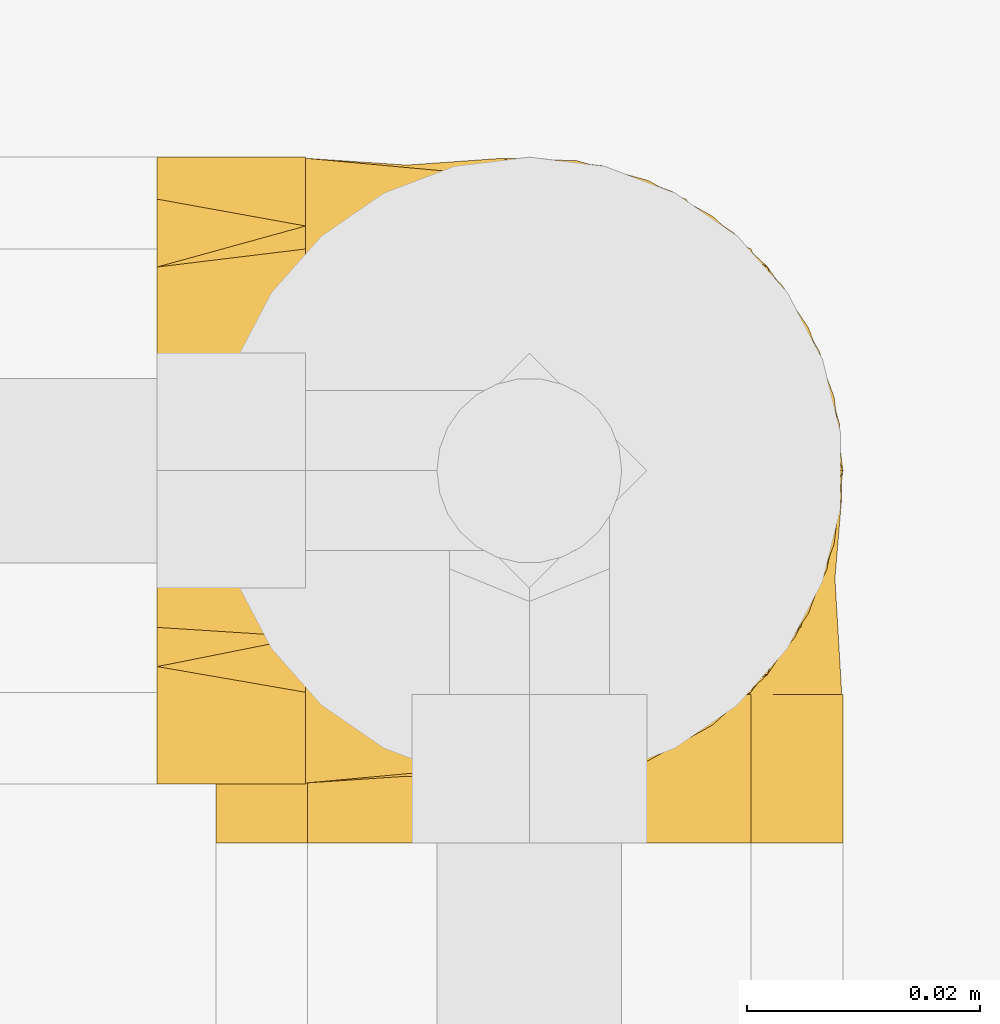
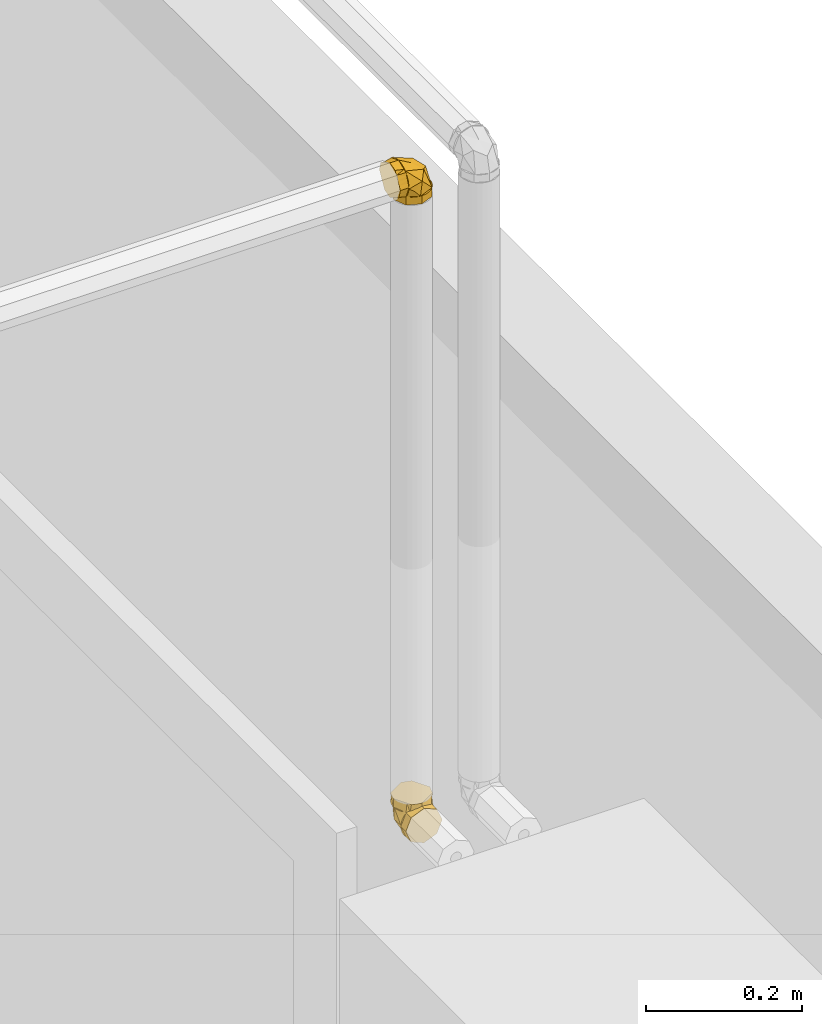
# One storey, part 365 of 652: 2 coverings.
"""IFC2X3 building model written with IfcOpenShell, lengths in millimetres."""

from ifc_helpers import new_model, entity, si_unit, converted_unit, direction, frame, origin, place, context, subcontext, project, spatial, face_set, surface_model, material, type_object, element, save


model = new_model("IFC2X3")

# Units and contexts
model_context = context("Model", 3, precision=0.01, world=frame((0.0, 0.0, 308426.39999999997)), true_north=direction((6.123233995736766e-17, 1.0)))
plan_context = context("Plan", 3, precision=0.01, world=frame((0.0, 0.0, 308426.39999999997)), true_north=direction((6.123233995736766e-17, 1.0)))
body_context = subcontext(model_context, "Body", "Model", "MODEL_VIEW")
ifc_project = project(units=[si_unit("LENGTHUNIT", "METRE", prefix="MILLI"), si_unit("AREAUNIT", "SQUARE_METRE"), si_unit("VOLUMEUNIT", "CUBIC_METRE"), converted_unit("PLANEANGLEUNIT", "DEGREE", entity("IfcPlaneAngleMeasure", 0.017453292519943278), si_unit("PLANEANGLEUNIT", "RADIAN"), dimensions=[0, 0, 0, 0, 0, 0, 0])], contexts=[model_context, plan_context])

# Site, building, storey
site_placement = place(None, origin())
site = spatial("IfcSite", under=ifc_project, at=site_placement, Name="Default", CompositionType="ELEMENT")
building_placement = place(site_placement, origin())
building = spatial("IfcBuilding", under=site, at=building_placement, CompositionType="ELEMENT")
storey_placement = place(building_placement, frame((0.0, 0.0, 1730.6999999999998)))
storey = spatial("IfcBuildingStorey", under=building, at=storey_placement, Name="EG_Produktion_FFB", CompositionType="ELEMENT", Elevation=1730.6999999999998)

# Coverings
ifc_material = material(Name="Dämmung - Armaflex-Schlauch")
covering_type = type_object("IfcCoveringType", Name="Rohrdämmung außen:Armaflex-Schlauch", PredefinedType="INSULATION")
covering_1_placement = place(storey_placement, frame((66196.95799511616, 39818.016249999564, 2671.4672277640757)))
element("IfcCovering", 1, at=covering_1_placement, inside=storey, type_object=covering_type, material=ifc_material, Name="Rohrdämmung außen:Armaflex-Schlauch", ObjectType="Rohrdämmung außen:Armaflex-Schlauch", PredefinedType="INSULATION", context=body_context, shape_type="SurfaceModel", body=[
    surface_model("IfcFaceBasedSurfaceModel", [(9.65642195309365, 12.766250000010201, 47.75027223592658), (5.678961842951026, 12.766250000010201, 42.79223424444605), (2.973980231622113, 12.766250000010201, 37.040242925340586), (1.6920879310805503, 12.766250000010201, 30.81456370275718), (1.904659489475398, 12.766250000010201, 24.46183649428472), (3.599859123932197, 12.766250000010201, 18.33577512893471), (6.683299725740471, 12.766250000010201, 12.777472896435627), (10.983298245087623, 12.766250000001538, 8.096410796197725), (16.26043484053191, 12.766250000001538, 4.553225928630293), (22.220883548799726, 12.766250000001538, 2.3451994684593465), (28.532772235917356, 12.766250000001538, 1.5952722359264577), (34.844660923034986, 12.766250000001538, 2.3451994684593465), (40.8051096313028, 12.766250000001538, 4.553225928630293), (46.08224622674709, 12.766250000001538, 8.096410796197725), (50.38224474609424, 12.766250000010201, 12.777472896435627), (53.465685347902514, 12.766250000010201, 18.33577512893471), (55.16088498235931, 12.766250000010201, 24.46183649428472), (55.37345654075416, 12.766250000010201, 30.81456370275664), (54.0915642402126, 12.766250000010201, 37.04024292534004), (51.38658262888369, 12.766250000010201, 42.79223424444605), (47.409122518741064, 12.766250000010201, 47.75027223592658), (51.38658262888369, 17.72428799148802, 47.75027223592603), (54.0915642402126, 23.476279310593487, 47.75027223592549), (55.37345654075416, 29.701958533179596, 47.75027223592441), (55.16088498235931, 36.05468574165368, 47.75027223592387), (53.465685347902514, 42.18074710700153, 47.750272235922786), (50.38224474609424, 47.73904933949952, 47.750272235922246), (46.08224622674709, 52.420111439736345, 47.750272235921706), (40.8051096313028, 55.96329630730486, 47.750272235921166), (34.844660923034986, 58.17132276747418, 47.750272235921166), (28.532772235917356, 58.921250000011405, 47.750272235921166), (22.220883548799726, 58.17132276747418, 47.750272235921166), (16.26043484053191, 55.96329630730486, 47.750272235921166), (10.983298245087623, 52.420111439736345, 47.750272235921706), (6.683299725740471, 47.73904933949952, 47.750272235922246), (3.599859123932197, 42.18074710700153, 47.750272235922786), (1.904659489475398, 36.05468574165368, 47.75027223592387), (1.6920879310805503, 29.701958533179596, 47.75027223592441), (2.973980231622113, 23.476279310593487, 47.75027223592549), (5.678961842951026, 17.72428799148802, 47.75027223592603), (2.2756962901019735, 22.71005615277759, 39.06982362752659), (28.534558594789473, 35.84413818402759, 7.779001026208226), (6.335913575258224, 12.76647705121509, 19.455613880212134), (3.6011967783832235, 33.56520751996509, 26.951086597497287), (14.284265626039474, 43.18322509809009, 18.674847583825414), (28.534558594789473, 48.37825683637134, 29.48668764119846), (6.335913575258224, 41.06242431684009, 47.75039842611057), (42.78020068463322, 43.18322509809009, 18.674847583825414), (53.46792041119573, 33.56520751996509, 26.951086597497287), (54.78877002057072, 22.71005615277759, 39.06982362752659), (50.728552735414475, 41.06242431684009, 47.75039842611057), (50.728552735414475, 12.76647705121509, 19.455613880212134), (28.532772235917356, 0.0, 1.5952722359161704), (33.29469446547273, 0.0, 3.567725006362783), (38.05661669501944, 0.0, 5.540177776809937), (42.818538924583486, 0.0, 7.51263054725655), (47.5804611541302, 0.0, 9.485083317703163), (49.552913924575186, 0.0, 14.247005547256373), (51.525366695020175, 0.0, 19.008927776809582), (53.497819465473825, 0.0, 23.770850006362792), (55.47027223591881, 0.0, 28.532772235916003), (53.49781946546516, 0.0, 33.29469446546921), (51.525366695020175, 0.0, 38.05661669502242), (49.552913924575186, 0.0, 42.818538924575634), (47.5804611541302, 0.0, 47.5804611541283), (42.81853892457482, 0.0, 49.552913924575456), (38.05661669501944, 0.0, 51.525366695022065), (33.29469446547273, 0.0, 53.49781946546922), (28.532772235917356, 0.0, 55.470272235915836), (23.77085000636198, 0.0, 53.49781946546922), (19.008927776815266, 0.0, 51.525366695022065), (14.247005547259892, 0.0, 49.552913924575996), (9.485083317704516, 0.0, 47.58046115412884), (7.512630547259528, 0.0, 42.818538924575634), (5.54017777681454, 0.0, 38.05661669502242), (3.567725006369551, 0.0, 33.29469446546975), (1.5952722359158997, 0.0, 28.532772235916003), (3.567725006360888, 0.0, 23.770850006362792), (5.54017777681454, 0.0, 19.008927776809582), (7.512630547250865, 0.0, 14.247005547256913), (9.485083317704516, 0.0, 9.485083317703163), (14.247005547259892, 0.0, 7.512630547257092), (19.008927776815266, 0.0, 5.540177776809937), (23.77085000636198, 0.0, 3.567725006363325), (28.532772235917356, 12.766250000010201, 1.5952722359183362), (23.77085000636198, 12.766250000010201, 3.567725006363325), (19.008927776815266, 12.766250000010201, 5.540177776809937), (14.247005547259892, 12.766250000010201, 7.512630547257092), (9.485083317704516, 12.766250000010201, 9.485083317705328), (7.095738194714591, 12.766250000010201, 15.253472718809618), (4.706393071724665, 12.766250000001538, 21.02186211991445), (1.5952722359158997, 12.766250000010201, 28.532772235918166), (3.567725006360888, 12.766250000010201, 33.29469446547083), (5.54017777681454, 12.766250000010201, 38.05661669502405), (7.512630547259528, 12.766250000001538, 42.818538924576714), (9.485083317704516, 12.766250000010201, 47.58046115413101), (15.253472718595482, 12.766250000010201, 49.96980627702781), (21.021862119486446, 12.766250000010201, 52.359151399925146), (28.532772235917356, 12.766250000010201, 55.470272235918), (33.29469446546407, 12.766250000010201, 53.49781946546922), (38.05661669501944, 12.766250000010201, 51.52536669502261), (42.81853892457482, 12.766250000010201, 49.552913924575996), (47.5804611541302, 12.766250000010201, 47.58046115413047), (49.96980627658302, 12.766250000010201, 41.81207175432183), (52.359151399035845, 12.766250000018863, 36.04368235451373), (55.47027223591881, 12.766250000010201, 28.532772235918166), (53.497819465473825, 12.766250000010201, 23.77085000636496), (51.525366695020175, 12.766250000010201, 19.008927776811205), (49.552913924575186, 12.766250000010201, 14.247005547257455), (47.5804611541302, 12.766250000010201, 9.485083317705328), (41.81207177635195, 12.766250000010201, 7.095738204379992), (36.0436823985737, 12.766250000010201, 4.706393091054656), (28.532772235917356, 58.921250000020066, 60.516522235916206), (22.700632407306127, 55.55406250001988, 60.5165222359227), (16.868492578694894, 52.186875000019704, 60.51652223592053), (11.036352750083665, 48.81968750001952, 60.516522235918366), (5.204212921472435, 45.452500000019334, 60.516522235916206), (3.3997425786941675, 38.71812500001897, 60.516522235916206), (1.5952722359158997, 31.98375000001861, 60.516522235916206), (4.962459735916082, 26.15161017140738, 60.51652223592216), (8.329647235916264, 20.319470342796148, 60.51652223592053), (11.696834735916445, 14.487330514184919, 60.516522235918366), (15.064022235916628, 8.65519068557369, 60.516522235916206), (21.79839723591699, 6.850720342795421, 60.516522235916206), (28.532772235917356, 5.046250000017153, 60.516522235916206), (34.36491206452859, 8.413437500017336, 60.5165222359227), (40.197051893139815, 11.780625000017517, 60.51652223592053), (46.02919172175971, 15.1478125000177, 60.51652223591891), (51.86133155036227, 18.51500000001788, 60.516522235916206), (53.66580189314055, 25.249375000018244, 60.516522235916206), (55.47027223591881, 31.98375000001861, 60.516522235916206), (52.10308473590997, 37.81588982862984, 60.5165222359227), (48.73589723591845, 43.64802965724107, 60.51652223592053), (45.36870973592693, 49.4801694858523, 60.51652223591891), (42.00152223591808, 55.312309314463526, 60.516522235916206), (35.26714723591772, 57.1167796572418, 60.516522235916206), (28.532772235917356, 58.921250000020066, 47.75027223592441), (33.29469446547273, 56.94879722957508, 47.75027223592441), (38.05661669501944, 54.97634445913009, 47.75027223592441), (42.81853892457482, 53.00389168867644, 47.75027223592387), (47.5804611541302, 51.03143891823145, 47.75027223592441), (49.552913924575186, 46.26951668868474, 47.75027223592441), (51.525366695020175, 41.50759445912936, 47.75027223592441), (53.497819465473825, 36.745672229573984, 47.75027223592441), (55.47027223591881, 31.98375000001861, 47.75027223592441), (53.497819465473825, 27.221827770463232, 47.75027223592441), (51.525366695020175, 22.459905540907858, 47.75027223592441), (49.552913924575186, 17.697983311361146, 47.75027223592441), (47.5804611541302, 12.93606108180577, 47.75027223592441), (42.81853892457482, 10.963608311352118, 47.75027223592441), (38.05661669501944, 8.99115554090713, 47.75027223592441), (33.29469446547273, 7.018702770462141, 47.75027223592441), (28.532772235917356, 5.046250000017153, 47.75027223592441), (23.770850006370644, 7.018702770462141, 47.75027223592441), (19.008927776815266, 8.99115554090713, 47.75027223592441), (14.247005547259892, 10.963608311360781, 47.75027223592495), (9.485083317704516, 12.93606108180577, 47.75027223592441), (7.512630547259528, 17.697983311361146, 47.75027223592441), (5.54017777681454, 22.459905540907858, 47.75027223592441), (3.567725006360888, 27.221827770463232, 47.75027223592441), (1.5952722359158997, 31.98375000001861, 47.75027223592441), (3.567725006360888, 36.745672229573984, 47.75027223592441), (5.54017777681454, 41.50759445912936, 47.75027223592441), (7.512630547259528, 46.26951668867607, 47.75027223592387), (9.485083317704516, 51.03143891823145, 47.75027223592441), (14.247005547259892, 53.00389168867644, 47.75027223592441), (19.008927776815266, 54.97634445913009, 47.75027223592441), (23.77085000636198, 56.94879722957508, 47.75027223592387)], [face_set([[[0, 1, 2, 3, 4, 5, 6, 7, 8, 9, 10, 11, 12, 13, 14, 15, 16, 17, 18, 19]], [[20, 21, 22, 23, 24, 25, 26, 27, 28, 29, 30, 31, 32, 33, 34, 35, 36, 37, 38, 39]], [[0, 40, 3]], [[10, 7, 41]], [[42, 3, 43]], [[40, 43, 3]], [[37, 40, 0]], [[7, 43, 44]], [[45, 41, 44]], [[7, 44, 41]], [[33, 30, 45]], [[45, 44, 33]], [[43, 33, 44]], [[43, 37, 46]], [[43, 7, 42]], [[37, 43, 40]], [[46, 33, 43]], [[13, 10, 41]], [[27, 47, 45]], [[45, 30, 27]], [[48, 47, 27]], [[49, 48, 23]], [[48, 50, 23]], [[45, 47, 41]], [[20, 49, 23]], [[47, 48, 13]], [[17, 49, 20]], [[41, 47, 13]], [[48, 17, 51]], [[48, 27, 50]], [[17, 48, 49]], [[51, 13, 48]]]), face_set([[[52, 53, 54, 55, 56, 57, 58, 59, 60, 61, 62, 63, 64, 65, 66, 67, 68, 69, 70, 71, 72, 73, 74, 75, 76, 77, 78, 79, 80, 81, 82, 83]], [[84, 85, 86, 87, 88, 89, 90, 91, 92, 93, 94, 95, 96, 97, 98, 99, 100, 101, 102, 103, 104, 105, 106, 107, 108, 109, 110, 111]], [[111, 110, 109, 56, 55, 54, 53, 52, 84]], [[56, 109, 108, 107, 106, 105, 60, 59, 58, 57]], [[104, 103, 102, 64, 63, 62, 61, 60, 105]], [[64, 102, 101, 100, 99, 98, 68, 67, 66, 65]], [[97, 96, 95, 72, 71, 70, 69, 68, 98]], [[72, 95, 94, 93, 92, 91, 76, 75, 74, 73]], [[90, 89, 88, 80, 79, 78, 77, 76, 91]], [[80, 88, 87, 86, 85, 84, 52, 83, 82, 81]]]), face_set([[[112, 113, 114, 115, 116, 117, 118, 119, 120, 121, 122, 123, 124, 125, 126, 127, 128, 129, 130, 131, 132, 133, 134, 135]], [[136, 137, 138, 139, 140, 141, 142, 143, 144, 145, 146, 147, 148, 149, 150, 151, 152, 153, 154, 155, 156, 157, 158, 159, 160, 161, 162, 163, 164, 165, 166, 167]], [[155, 121, 156]], [[118, 159, 119]], [[159, 158, 119]], [[123, 154, 153]], [[153, 152, 124]], [[121, 155, 122]], [[120, 158, 157]], [[118, 160, 159]], [[158, 120, 119]], [[124, 123, 153]], [[157, 156, 121]], [[155, 154, 122]], [[123, 122, 154]], [[120, 157, 121]], [[163, 115, 164]], [[112, 167, 113]], [[167, 166, 113]], [[117, 162, 161]], [[161, 160, 118]], [[115, 163, 116]], [[114, 166, 165]], [[112, 136, 167]], [[166, 114, 113]], [[118, 117, 161]], [[165, 164, 115]], [[163, 162, 116]], [[117, 116, 162]], [[114, 165, 115]], [[139, 133, 140]], [[130, 143, 131]], [[143, 142, 131]], [[135, 138, 137]], [[137, 136, 112]], [[133, 139, 134]], [[132, 142, 141]], [[130, 144, 143]], [[142, 132, 131]], [[112, 135, 137]], [[141, 140, 133]], [[139, 138, 134]], [[135, 134, 138]], [[132, 141, 133]], [[147, 127, 148]], [[124, 151, 125]], [[151, 150, 125]], [[129, 146, 145]], [[145, 144, 130]], [[127, 147, 128]], [[126, 150, 149]], [[124, 152, 151]], [[150, 126, 125]], [[130, 129, 145]], [[149, 148, 127]], [[147, 146, 128]], [[129, 128, 146]], [[126, 149, 127]]])]),
])
covering_2_placement = place(storey_placement, frame((66193.50701735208, 39821.46722776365, 3728.5327722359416)))
element("IfcCovering", 2, at=covering_2_placement, inside=storey, type_object=covering_type, material=ifc_material, Name="Rohrdämmung außen:Armaflex-Schlauch", ObjectType="Rohrdämmung außen:Armaflex-Schlauch", PredefinedType="INSULATION", context=body_context, shape_type="SurfaceModel", body=[
    surface_model("IfcFaceBasedSurfaceModel", [(12.766249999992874, 47.409122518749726, -47.750272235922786), (17.724287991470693, 51.38658262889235, -47.75027223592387), (23.47627931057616, 54.09156424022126, -47.75027223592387), (29.70195853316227, 55.373456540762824, -47.75027223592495), (36.054685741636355, 55.160884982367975, -47.75027223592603), (42.1807471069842, 53.465685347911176, -47.75027223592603), (47.7390493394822, 50.382244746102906, -47.75027223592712), (52.420111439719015, 46.08224622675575, -47.75027223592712), (55.963296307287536, 40.80510963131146, -47.7502722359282), (58.17132276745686, 34.84466092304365, -47.7502722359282), (58.921249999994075, 28.532772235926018, -47.7502722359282), (58.17132276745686, 22.220883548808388, -47.7502722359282), (55.963296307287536, 16.260434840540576, -47.7502722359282), (52.420111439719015, 10.983298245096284, -47.75027223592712), (47.7390493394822, 6.6832997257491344, -47.75027223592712), (42.1807471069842, 3.5998591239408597, -47.75027223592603), (36.054685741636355, 1.904659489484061, -47.75027223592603), (29.70195853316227, 1.6920879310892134, -47.75027223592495), (23.47627931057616, 2.973980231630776, -47.75027223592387), (17.724287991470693, 5.678961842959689, -47.75027223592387), (12.766249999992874, 9.656421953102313, -47.750272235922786), (12.766249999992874, 5.678961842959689, -42.79223424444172), (12.766249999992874, 2.973980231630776, -37.04024292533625), (12.766249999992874, 1.6920879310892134, -30.814563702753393), (12.766249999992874, 1.904659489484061, -24.46183649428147), (12.766249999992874, 3.5998591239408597, -18.33577512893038), (12.766249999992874, 6.6832997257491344, -12.777472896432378), (12.766250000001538, 10.983298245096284, -8.096410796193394), (12.766250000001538, 16.260434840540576, -4.553225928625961), (12.766250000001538, 22.220883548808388, -2.3451994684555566), (12.766250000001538, 28.532772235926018, -1.5952722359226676), (12.766250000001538, 34.84466092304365, -2.3451994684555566), (12.766250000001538, 40.80510963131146, -4.553225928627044), (12.766250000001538, 46.08224622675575, -8.096410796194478), (12.766249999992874, 50.382244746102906, -12.777472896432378), (12.766249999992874, 53.465685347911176, -18.33577512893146), (12.766249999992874, 55.160884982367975, -24.46183649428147), (12.766249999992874, 55.373456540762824, -30.814563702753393), (12.766249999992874, 54.09156424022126, -37.04024292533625), (12.766249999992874, 51.38658262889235, -42.7922342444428), (21.446644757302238, 54.78714235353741, -37.80729463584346), (52.737758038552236, 28.532930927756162, -24.672631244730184), (41.05940110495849, 50.72692506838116, -47.750292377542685), (33.56683518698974, 53.46629274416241, -26.9509805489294), (41.84074876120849, 42.77857301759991, -17.33238161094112), (31.03210618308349, 28.532930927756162, -12.139675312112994), (12.768104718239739, 50.72692506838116, -19.455507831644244), (41.84074876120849, 14.287288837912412, -17.33238161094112), (33.56683518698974, 3.599569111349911, -26.9509805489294), (21.446644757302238, 2.274068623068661, -37.80729463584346), (12.768104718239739, 6.338936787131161, -19.455507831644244), (41.05940110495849, 6.338936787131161, -47.750292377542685), (53.00389168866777, 42.818538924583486, -60.51652223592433), (54.97634445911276, 38.056616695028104, -60.51652223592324), (56.948797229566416, 33.29469446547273, -60.51652223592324), (58.921250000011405, 28.532772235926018, -60.51652223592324), (56.94879722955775, 23.770850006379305, -60.51652223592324), (54.97634445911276, 19.00892777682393, -60.51652223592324), (53.00389168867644, 14.247005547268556, -60.51652223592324), (51.03143891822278, 9.48508331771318, -60.51652223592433), (46.26951668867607, 7.512630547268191, -60.51652223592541), (41.507594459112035, 5.540177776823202, -60.51652223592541), (36.74567222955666, 3.567725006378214, -60.51652223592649), (31.983750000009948, 1.5952722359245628, -60.516522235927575), (27.22182777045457, 3.567725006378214, -60.516522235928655), (22.459905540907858, 5.540177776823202, -60.51652223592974), (17.697983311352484, 7.512630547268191, -60.51652223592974), (12.936061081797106, 9.48508331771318, -60.51652223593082), (10.963608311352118, 14.247005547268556, -60.5165222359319), (8.99115554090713, 19.00892777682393, -60.5165222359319), (7.018702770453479, 23.770850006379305, -60.5165222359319), (5.046250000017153, 28.532772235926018, -60.5165222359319), (7.018702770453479, 33.29469446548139, -60.5165222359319), (8.99115554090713, 38.056616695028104, -60.5165222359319), (10.963608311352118, 42.818538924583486, -60.51652223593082), (12.936061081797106, 47.58046115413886, -60.51652223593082), (17.697983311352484, 49.55291392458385, -60.51652223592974), (22.459905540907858, 51.525366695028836, -60.51652223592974), (27.22182777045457, 53.497819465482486, -60.516522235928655), (31.983750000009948, 55.47027223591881, -60.516522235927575), (36.74567222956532, 53.497819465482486, -60.516522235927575), (41.507594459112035, 51.525366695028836, -60.51652223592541), (46.26951668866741, 49.55291392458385, -60.51652223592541), (51.03143891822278, 47.58046115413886, -60.51652223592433), (58.92125000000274, 28.532772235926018, -47.75027223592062), (56.948797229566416, 33.29469446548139, -47.75027223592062), (54.97634445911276, 38.056616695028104, -47.750272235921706), (53.00389168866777, 42.818538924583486, -47.750272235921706), (51.03143891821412, 47.58046115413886, -47.750272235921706), (45.26304951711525, 49.96980627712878, -47.750272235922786), (39.49466011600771, 52.35915140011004, -47.75027223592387), (31.983750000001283, 55.47027223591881, -47.75027223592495), (27.221827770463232, 53.497819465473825, -47.75027223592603), (22.459905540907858, 51.525366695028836, -47.75027223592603), (17.69798331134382, 49.55291392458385, -47.7502722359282), (12.936061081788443, 47.58046115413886, -47.7502722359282), (10.546715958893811, 41.81207175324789, -47.7502722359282), (8.157370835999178, 36.04368235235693, -47.7502722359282), (5.046250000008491, 28.532772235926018, -47.75027223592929), (7.018702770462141, 23.770850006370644, -47.75027223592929), (8.99115554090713, 19.00892777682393, -47.7502722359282), (10.963608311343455, 14.247005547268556, -47.7502722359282), (12.936061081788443, 9.48508331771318, -47.7502722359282), (18.70445048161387, 7.095738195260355, -47.75027223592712), (24.472839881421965, 4.706393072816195, -47.75027223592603), (31.983750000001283, 1.5952722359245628, -47.75027223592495), (36.74567222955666, 3.567725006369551, -47.75027223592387), (41.507594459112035, 5.540177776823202, -47.75027223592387), (46.26951668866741, 7.512630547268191, -47.750272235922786), (51.03143891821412, 9.48508331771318, -47.750272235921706), (53.420784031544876, 15.253472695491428, -47.750272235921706), (55.81012914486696, 21.021862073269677, -47.750272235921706), (0.0, 28.532772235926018, -1.5952722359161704), (0.0, 34.36491206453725, -4.962459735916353), (0.0, 40.197051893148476, -8.329647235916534), (0.0, 46.02919172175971, -11.696834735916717), (0.0, 51.86133155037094, -15.064022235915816), (0.0, 53.66580189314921, -21.79839723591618), (0.0, 55.470272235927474, -28.532772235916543), (0.0, 52.10308473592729, -34.36491206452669), (0.0, 48.73589723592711, -40.197051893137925), (0.0, 45.36870973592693, -46.02919172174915), (0.0, 42.00152223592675, -51.861331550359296), (0.0, 35.26714723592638, -53.66580189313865), (0.0, 28.532772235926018, -55.470272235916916), (0.0, 22.70063240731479, -52.10308473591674), (0.0, 16.86849257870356, -48.73589723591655), (0.0, 11.036352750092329, -45.36870973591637), (0.0, 5.204212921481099, -42.00152223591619), (0.0, 3.399742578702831, -35.26714723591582), (0.0, 1.5952722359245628, -28.532772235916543), (0.0, 4.962459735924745, -22.700632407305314), (0.0, 8.329647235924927, -16.868492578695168), (0.0, 11.696834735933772, -11.036352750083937), (0.0, 15.064022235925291, -5.204212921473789), (0.0, 21.798397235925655, -3.3997425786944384), (12.766250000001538, 28.532772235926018, -1.5952722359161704), (12.766250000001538, 23.770850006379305, -3.567725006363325), (12.766250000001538, 19.00892777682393, -5.540177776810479), (12.766250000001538, 14.247005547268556, -7.512630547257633), (12.766250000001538, 9.48508331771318, -9.485083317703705), (12.766250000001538, 7.512630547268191, -14.247005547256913), (12.766250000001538, 5.540177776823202, -19.008927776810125), (12.766250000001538, 3.567725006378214, -23.770850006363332), (12.766250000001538, 1.5952722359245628, -28.532772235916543), (12.766250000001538, 3.567725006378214, -33.29469446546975), (12.766250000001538, 5.540177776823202, -38.05661669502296), (12.766250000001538, 7.512630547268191, -42.818538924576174), (12.766250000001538, 9.48508331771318, -47.58046115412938), (12.766250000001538, 14.247005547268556, -49.552913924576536), (12.766250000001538, 19.00892777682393, -51.52536669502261), (12.766250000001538, 23.770850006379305, -53.49781946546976), (12.766250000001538, 28.532772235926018, -55.470272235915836), (12.766250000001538, 33.29469446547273, -53.49781946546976), (12.766250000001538, 38.056616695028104, -51.52536669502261), (12.766250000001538, 42.818538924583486, -49.552913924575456), (12.766250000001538, 47.58046115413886, -47.58046115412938), (12.766250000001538, 49.55291392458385, -42.818538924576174), (12.766250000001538, 51.525366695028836, -38.05661669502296), (12.766250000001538, 53.497819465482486, -33.29469446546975), (12.766250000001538, 55.470272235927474, -28.532772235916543), (12.766250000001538, 53.497819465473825, -23.770850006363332), (12.766250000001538, 51.525366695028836, -19.008927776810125), (12.766250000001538, 49.55291392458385, -14.247005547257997), (12.766250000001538, 47.58046115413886, -9.485083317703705), (12.766250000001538, 42.818538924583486, -7.512630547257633), (12.766250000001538, 38.056616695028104, -5.540177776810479), (12.766250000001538, 33.29469446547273, -3.567725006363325)], [face_set([[[0, 1, 2, 3, 4, 5, 6, 7, 8, 9, 10, 11, 12, 13, 14, 15, 16, 17, 18, 19]], [[20, 21, 22, 23, 24, 25, 26, 27, 28, 29, 30, 31, 32, 33, 34, 35, 36, 37, 38, 39]], [[0, 40, 3]], [[10, 7, 41]], [[42, 3, 43]], [[40, 43, 3]], [[37, 40, 0]], [[7, 43, 44]], [[45, 41, 44]], [[7, 44, 41]], [[33, 30, 45]], [[45, 44, 33]], [[43, 33, 44]], [[43, 37, 46, 33]], [[43, 7, 42]], [[37, 43, 40]], [[13, 10, 41]], [[27, 47, 45]], [[45, 30, 27]], [[48, 47, 27]], [[49, 48, 23]], [[50, 23, 48, 27]], [[45, 47, 41]], [[20, 49, 23]], [[47, 48, 13]], [[17, 49, 20]], [[41, 47, 13]], [[48, 17, 51]], [[17, 48, 49]], [[51, 13, 48]]]), face_set([[[52, 53, 54, 55, 56, 57, 58, 59, 60, 61, 62, 63, 64, 65, 66, 67, 68, 69, 70, 71, 72, 73, 74, 75, 76, 77, 78, 79, 80, 81, 82, 83]], [[84, 85, 86, 87, 88, 89, 90, 91, 92, 93, 94, 95, 96, 97, 98, 99, 100, 101, 102, 103, 104, 105, 106, 107, 108, 109, 110, 111]], [[111, 110, 109, 59, 58, 57, 56, 55, 84]], [[59, 109, 108, 107, 106, 105, 63, 62, 61, 60]], [[104, 103, 102, 67, 66, 65, 64, 63, 105]], [[67, 102, 101, 100, 99, 98, 71, 70, 69, 68]], [[97, 96, 95, 75, 74, 73, 72, 71, 98]], [[75, 95, 94, 93, 92, 91, 79, 78, 77, 76]], [[90, 89, 88, 83, 82, 81, 80, 79, 91]], [[83, 88, 87, 86, 85, 84, 55, 54, 53, 52]]]), face_set([[[112, 113, 114, 115, 116, 117, 118, 119, 120, 121, 122, 123, 124, 125, 126, 127, 128, 129, 130, 131, 132, 133, 134, 135]], [[136, 137, 138, 139, 140, 141, 142, 143, 144, 145, 146, 147, 148, 149, 150, 151, 152, 153, 154, 155, 156, 157, 158, 159, 160, 161, 162, 163, 164, 165, 166, 167]], [[155, 121, 156]], [[118, 159, 119]], [[159, 158, 119]], [[123, 154, 153]], [[153, 152, 124]], [[121, 155, 122]], [[120, 158, 157]], [[118, 160, 159]], [[158, 120, 119]], [[124, 123, 153]], [[157, 156, 121]], [[155, 154, 122]], [[123, 122, 154]], [[120, 157, 121]], [[163, 115, 164]], [[112, 167, 113]], [[167, 166, 113]], [[117, 162, 161]], [[161, 160, 118]], [[115, 163, 116]], [[114, 166, 165]], [[112, 136, 167]], [[166, 114, 113]], [[118, 117, 161]], [[165, 164, 115]], [[163, 162, 116]], [[117, 116, 162]], [[114, 165, 115]], [[139, 133, 140]], [[130, 143, 131]], [[143, 142, 131]], [[135, 138, 137]], [[137, 136, 112]], [[133, 139, 134]], [[132, 142, 141]], [[130, 144, 143]], [[142, 132, 131]], [[112, 135, 137]], [[141, 140, 133]], [[139, 138, 134]], [[135, 134, 138]], [[132, 141, 133]], [[147, 127, 148]], [[124, 151, 125]], [[151, 150, 125]], [[129, 146, 145]], [[145, 144, 130]], [[127, 147, 128]], [[126, 150, 149]], [[124, 152, 151]], [[150, 126, 125]], [[130, 129, 145]], [[149, 148, 127]], [[147, 146, 128]], [[129, 128, 146]], [[126, 149, 127]]])]),
])

save(model, "model.ifc")
